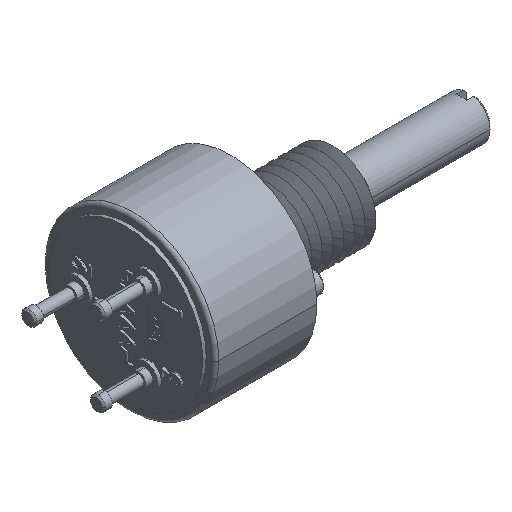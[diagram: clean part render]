
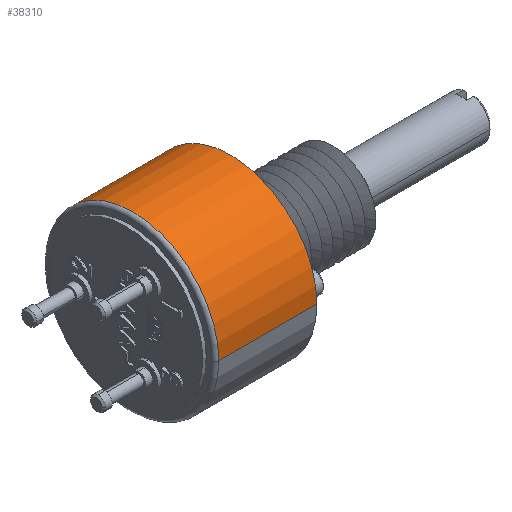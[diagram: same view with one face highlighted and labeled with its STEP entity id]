
A CAD part, isometric view. The second image highlights one B-rep face of the part: STEP entity #38310.
In plain terms, the highlighted cylindrical face has radius 6.35 mm (diameter 12.7 mm), a partial arc.
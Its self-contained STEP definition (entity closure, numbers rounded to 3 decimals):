
#33410=CARTESIAN_POINT('',(-4.134,0.,
0.));
#33420=DIRECTION('',(1.,0.,0.));
#33430=DIRECTION('',(0.,-1.,0.));
#33440=AXIS2_PLACEMENT_3D('',#33410,#33420,#33430);
#33450=CIRCLE('',#33440,6.35);
#33460=CARTESIAN_POINT('',(-4.134,-6.35,0.
));
#33470=VERTEX_POINT('',#33460);
#33480=CARTESIAN_POINT('',(-4.134,6.35,0.));
#33490=VERTEX_POINT('',#33480);
#33520=EDGE_CURVE('',#33490,#33470,#33450,.T.);
#38000=CARTESIAN_POINT('',(-8.293,0.,0.));
#38010=DIRECTION('',(-1.,0.,0.));
#38020=DIRECTION('',(0.,1.,0.));
#38030=AXIS2_PLACEMENT_3D('',#38000,#38010,#38020);
#38040=CYLINDRICAL_SURFACE('',#38030,6.35);
#38050=CARTESIAN_POINT('',(-8.293,6.35,0.));
#38060=DIRECTION('',(-1.,0.,0.));
#38070=VECTOR('',#38060,1.);
#38080=LINE('',#38050,#38070);
#38090=CARTESIAN_POINT('',(-11.373,6.35,0.))
;
#38100=VERTEX_POINT('',#38090);
#38110=EDGE_CURVE('',#33490,#38100,#38080,.T.);
#38120=ORIENTED_EDGE('',*,*,#38110,.T.);
#38130=ORIENTED_EDGE('',*,*,#33520,.F.);
#38140=CARTESIAN_POINT('',(-8.293,-6.35,0.
));
#38150=DIRECTION('',(-1.,0.,0.));
#38160=VECTOR('',#38150,1.);
#38170=LINE('',#38140,#38160);
#38180=CARTESIAN_POINT('',(-11.373,-6.35,0.)
);
#38190=VERTEX_POINT('',#38180);
#38200=EDGE_CURVE('',#33470,#38190,#38170,.T.);
#38210=ORIENTED_EDGE('',*,*,#38200,.F.);
#38220=CARTESIAN_POINT('',(-11.373,0.,
0.));
#38230=DIRECTION('',(1.,0.,0.));
#38240=DIRECTION('',(0.,-1.,0.));
#38250=AXIS2_PLACEMENT_3D('',#38220,#38230,#38240);
#38260=CIRCLE('',#38250,6.35);
#38270=EDGE_CURVE('',#38100,#38190,#38260,.T.);
#38280=ORIENTED_EDGE('',*,*,#38270,.T.);
#38290=EDGE_LOOP('',(#38280,#38210,#38130,#38120));
#38300=FACE_OUTER_BOUND('',#38290,.T.);
#38310=ADVANCED_FACE('',(#38300),#38040,.T.);
